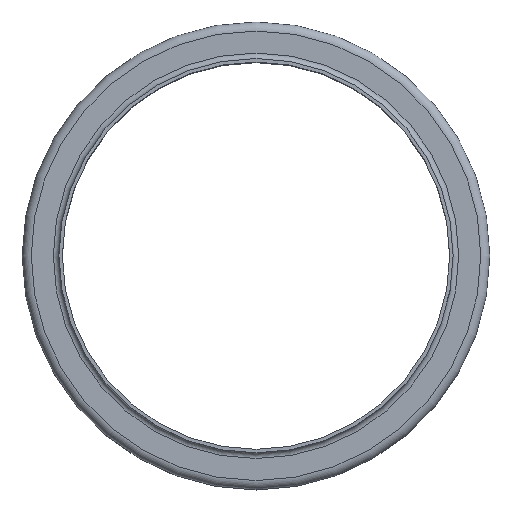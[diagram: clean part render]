
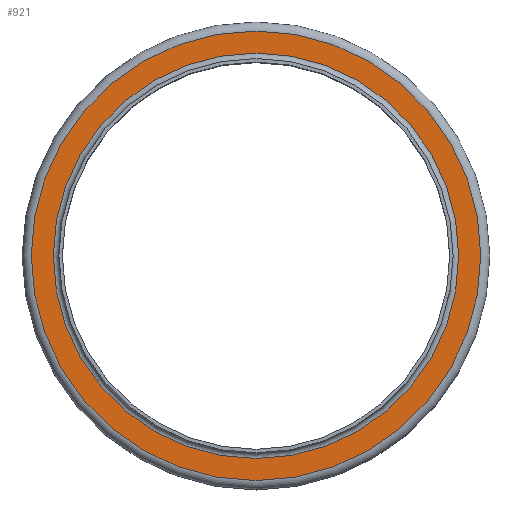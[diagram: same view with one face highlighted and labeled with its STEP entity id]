
A CAD part, top view. The second image highlights one B-rep face of the part: STEP entity #921.
In plain terms, the highlighted planar face has unit normal (0, 0, 1).
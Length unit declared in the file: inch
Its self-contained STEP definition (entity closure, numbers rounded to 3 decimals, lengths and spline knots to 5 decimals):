
#98=FACE_BOUND('',#272,.T.);
#165=FACE_OUTER_BOUND('',#271,.T.);
#271=EDGE_LOOP('',(#772));
#272=EDGE_LOOP('',(#773));
#385=CIRCLE('',#1110,3.4675);
#386=CIRCLE('',#1112,3.845);
#466=VERTEX_POINT('',#1734);
#467=VERTEX_POINT('',#1738);
#571=EDGE_CURVE('',#466,#466,#385,.T.);
#572=EDGE_CURVE('',#467,#467,#386,.T.);
#772=ORIENTED_EDGE('',*,*,#572,.F.);
#773=ORIENTED_EDGE('',*,*,#571,.T.);
#854=PLANE('',#1111);
#921=ADVANCED_FACE('',(#165,#98),#854,.T.);
#1110=AXIS2_PLACEMENT_3D('',#1736,#1446,#1447);
#1111=AXIS2_PLACEMENT_3D('',#1737,#1448,#1449);
#1112=AXIS2_PLACEMENT_3D('',#1739,#1450,#1451);
#1446=DIRECTION('center_axis',(0.,0.,-1.));
#1447=DIRECTION('ref_axis',(1.,0.,0.));
#1448=DIRECTION('center_axis',(0.,0.,1.));
#1449=DIRECTION('ref_axis',(1.,0.,0.));
#1450=DIRECTION('center_axis',(0.,0.,-1.));
#1451=DIRECTION('ref_axis',(1.,0.,0.));
#1734=CARTESIAN_POINT('',(3.4675,0.,-0.095));
#1736=CARTESIAN_POINT('Origin',(0.,0.,-0.095));
#1737=CARTESIAN_POINT('Origin',(0.,3.845,-0.095));
#1738=CARTESIAN_POINT('',(3.845,0.,-0.095));
#1739=CARTESIAN_POINT('Origin',(0.,0.,-0.095));
